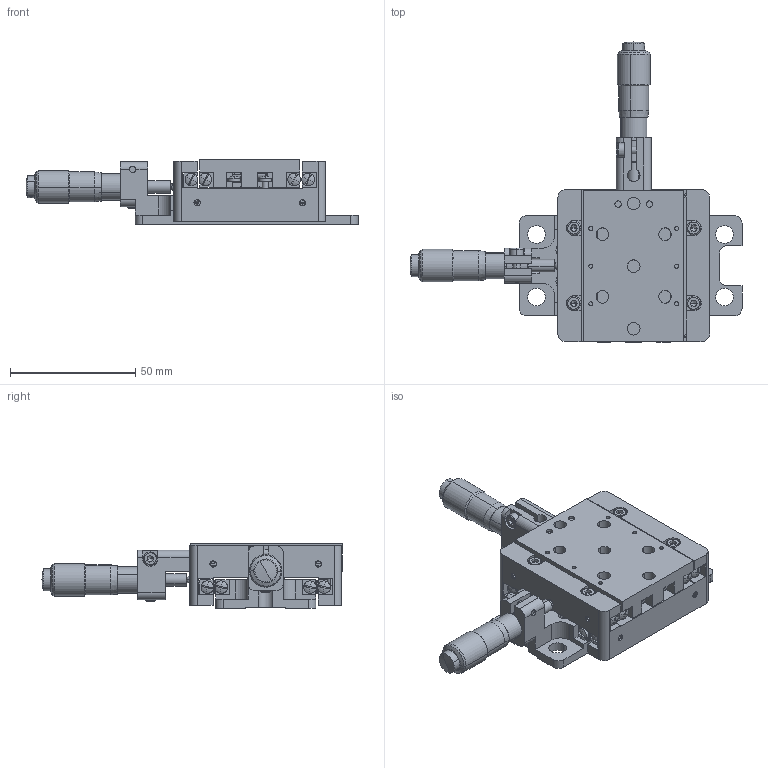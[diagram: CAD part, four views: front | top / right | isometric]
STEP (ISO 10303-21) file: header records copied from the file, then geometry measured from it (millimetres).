
FILE_DESCRIPTION (( 'STEP AP203' ), '1' );
FILE_NAME ('7SWM02213邧粣す痄怢(酘忒倰).STEP', '2019-09-17T07:26:03', ( '' ), ( '' ), 'SwSTEP 2.0', 'SolidWorks 2014', '' );
FILE_SCHEMA (( 'CONFIG_CONTROL_DESIGN' ));
Length unit declared in the file: millimetre
Products named in the file (1): 7SWM02213邧粣す痄怢(酘忒倰)
Bounding box: 132.43 x 119.69 x 25.9 mm (x, y, z)
Surface area: 51577.8 mm2 (no closed solid volume)
Topology: 0 solids, 80 shells, 719 faces, 2465 edges, 1724 vertices
Faces by surface type: plane 347, cylinder 230, sphere 78, cone 44, torus 20
Entity records: 27233 total; most frequent: CARTESIAN_POINT 5467, DIRECTION 4757, ORIENTED_EDGE 4010, EDGE_CURVE 2431, VERTEX_POINT 1716, AXIS2_PLACEMENT_3D 1686, VECTOR 1385, LINE 1385
